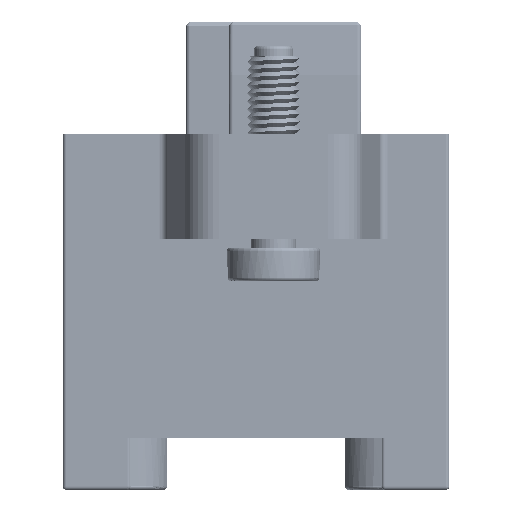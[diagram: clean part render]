
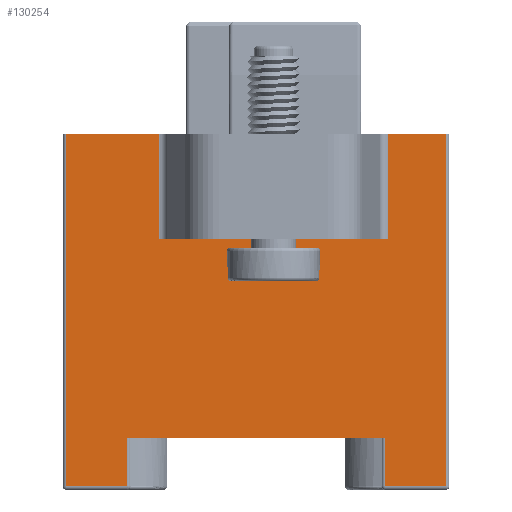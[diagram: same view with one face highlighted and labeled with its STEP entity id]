
A CAD part, front view. The second image highlights one B-rep face of the part: STEP entity #130254.
In plain terms, the highlighted planar face has unit normal (0, -1, 0).
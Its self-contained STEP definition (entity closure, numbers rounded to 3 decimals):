
#9327=DIRECTION('',(1.,0.,0.));
#9328=VECTOR('',#9327,14.7);
#9329=CARTESIAN_POINT('',(-7.35,-16.775,-7.2));
#9330=LINE('',#9329,#9328);
#19877=DIRECTION('',(1.,0.,0.));
#19878=VECTOR('',#19877,3.45);
#19879=CARTESIAN_POINT('',(-10.8,-16.775,-9.95));
#19880=LINE('',#19879,#19878);
#19896=DIRECTION('',(0.,0.,-1.));
#19897=VECTOR('',#19896,20.1);
#19898=CARTESIAN_POINT('',(-10.8,-16.775,10.15));
#19899=LINE('',#19898,#19897);
#19913=DIRECTION('',(-1.,0.,0.));
#19914=VECTOR('',#19913,3.266);
#19915=CARTESIAN_POINT('',(10.8,-16.775,10.15));
#19916=LINE('',#19915,#19914);
#19945=DIRECTION('',(-1.,0.,0.));
#19946=VECTOR('',#19945,5.266);
#19947=CARTESIAN_POINT('',(-5.534,-16.775,10.15));
#19948=LINE('',#19947,#19946);
#37926=DIRECTION('',(0.,0.,1.));
#37927=VECTOR('',#37926,2.75);
#37928=CARTESIAN_POINT('',(-7.35,-16.775,-9.95));
#37929=LINE('',#37928,#37927);
#37930=DIRECTION('',(1.,0.,0.));
#37931=VECTOR('',#37930,3.45);
#37932=CARTESIAN_POINT('',(7.35,-16.775,-9.95));
#37933=LINE('',#37932,#37931);
#37944=DIRECTION('',(0.,0.,1.));
#37945=VECTOR('',#37944,20.1);
#37946=CARTESIAN_POINT('',(10.8,-16.775,-9.95));
#37947=LINE('',#37946,#37945);
#37975=DIRECTION('',(0.,0.,-1.));
#37976=VECTOR('',#37975,2.75);
#37977=CARTESIAN_POINT('',(7.35,-16.775,-7.2));
#37978=LINE('',#37977,#37976);
#44652=DIRECTION('',(0.,0.,1.));
#44653=VECTOR('',#44652,6.);
#44654=CARTESIAN_POINT('',(-5.534,-16.775,4.15));
#44655=LINE('',#44654,#44653);
#44677=DIRECTION('',(-1.,0.,0.));
#44678=VECTOR('',#44677,13.067);
#44679=CARTESIAN_POINT('',(7.534,-16.775,4.15));
#44680=LINE('',#44679,#44678);
#44710=DIRECTION('',(0.,0.,-1.));
#44711=VECTOR('',#44710,6.);
#44712=CARTESIAN_POINT('',(7.534,-16.775,10.15));
#44713=LINE('',#44712,#44711);
#63507=CARTESIAN_POINT('',(7.35,-16.775,-9.95));
#63508=CARTESIAN_POINT('',(10.8,-16.775,-9.95));
#63509=VERTEX_POINT('',#63507);
#63510=VERTEX_POINT('',#63508);
#63511=CARTESIAN_POINT('',(7.35,-16.775,-7.2));
#63512=VERTEX_POINT('',#63511);
#63513=CARTESIAN_POINT('',(-7.35,-16.775,-9.95));
#63514=CARTESIAN_POINT('',(-7.35,-16.775,-7.2));
#63515=VERTEX_POINT('',#63513);
#63516=VERTEX_POINT('',#63514);
#63517=CARTESIAN_POINT('',(-10.8,-16.775,-9.95));
#63518=VERTEX_POINT('',#63517);
#63519=CARTESIAN_POINT('',(-10.8,-16.775,10.15));
#63520=VERTEX_POINT('',#63519);
#63521=CARTESIAN_POINT('',(-5.534,-16.775,10.15));
#63522=VERTEX_POINT('',#63521);
#63523=CARTESIAN_POINT('',(-5.534,-16.775,4.15));
#63524=VERTEX_POINT('',#63523);
#63525=CARTESIAN_POINT('',(7.534,-16.775,10.15));
#63526=CARTESIAN_POINT('',(7.534,-16.775,4.15));
#63527=VERTEX_POINT('',#63525);
#63528=VERTEX_POINT('',#63526);
#63529=CARTESIAN_POINT('',(10.8,-16.775,10.15));
#63530=VERTEX_POINT('',#63529);
#130229=CARTESIAN_POINT('',(0.,-16.775,0.1));
#130230=DIRECTION('',(0.,1.,0.));
#130231=DIRECTION('',(1.,0.,0.));
#130232=AXIS2_PLACEMENT_3D('',#130229,#130230,#130231);
#130233=PLANE('',#130232);
#130235=ORIENTED_EDGE('',*,*,#130234,.F.);
#130237=ORIENTED_EDGE('',*,*,#130236,.F.);
#130238=ORIENTED_EDGE('',*,*,#91915,.F.);
#130239=ORIENTED_EDGE('',*,*,#130223,.F.);
#130240=ORIENTED_EDGE('',*,*,#106021,.F.);
#130241=ORIENTED_EDGE('',*,*,#106048,.F.);
#130242=ORIENTED_EDGE('',*,*,#106092,.F.);
#130244=ORIENTED_EDGE('',*,*,#130243,.F.);
#130246=ORIENTED_EDGE('',*,*,#130245,.F.);
#130248=ORIENTED_EDGE('',*,*,#130247,.F.);
#130249=ORIENTED_EDGE('',*,*,#106076,.F.);
#130251=ORIENTED_EDGE('',*,*,#130250,.F.);
#130252=EDGE_LOOP('',(#130235,#130237,#130238,#130239,#130240,#130241,#130242,
#130244,#130246,#130248,#130249,#130251));
#130253=FACE_OUTER_BOUND('',#130252,.F.);
#130254=ADVANCED_FACE('',(#130253),#130233,.F.);
#91915=EDGE_CURVE('',#63516,#63512,#9330,.T.);
#106021=EDGE_CURVE('',#63518,#63515,#19880,.T.);
#106048=EDGE_CURVE('',#63520,#63518,#19899,.T.);
#106076=EDGE_CURVE('',#63530,#63527,#19916,.T.);
#106092=EDGE_CURVE('',#63522,#63520,#19948,.T.);
#130223=EDGE_CURVE('',#63515,#63516,#37929,.T.);
#130234=EDGE_CURVE('',#63509,#63510,#37933,.T.);
#130236=EDGE_CURVE('',#63512,#63509,#37978,.T.);
#130243=EDGE_CURVE('',#63524,#63522,#44655,.T.);
#130245=EDGE_CURVE('',#63528,#63524,#44680,.T.);
#130247=EDGE_CURVE('',#63527,#63528,#44713,.T.);
#130250=EDGE_CURVE('',#63510,#63530,#37947,.T.);
